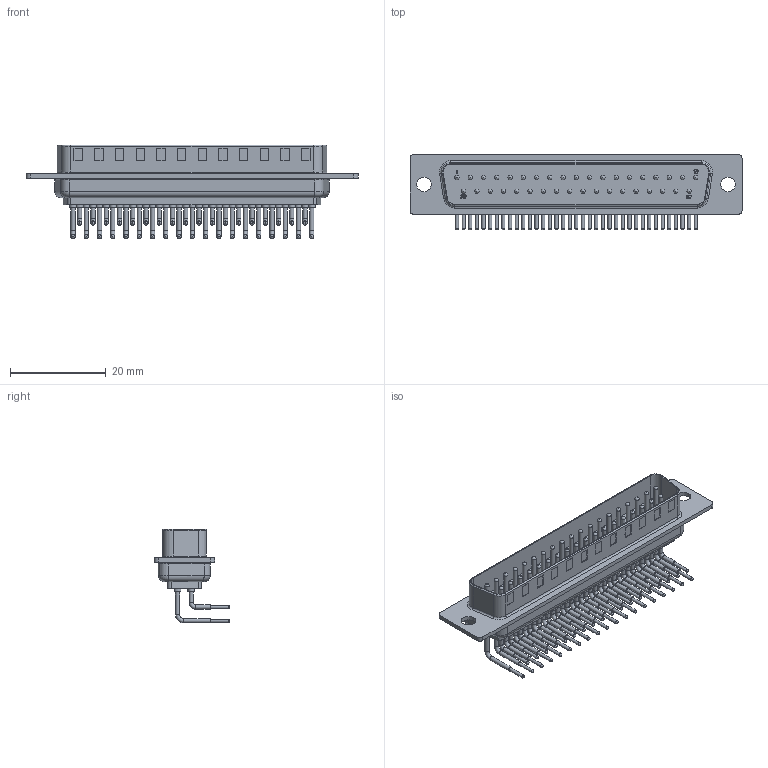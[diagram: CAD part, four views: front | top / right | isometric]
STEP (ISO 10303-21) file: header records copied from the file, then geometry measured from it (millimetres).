
FILE_DESCRIPTION (( 'STEP AP203' ), '1' );
FILE_NAME ('774-E37-113R001.STEP', '2026-04-28T15:17:34', ( '' ), ( '' ), 'SwSTEP 2.0', 'SolidWorks 2020', '' );
FILE_SCHEMA (( 'CONFIG_CONTROL_DESIGN' ));
Length unit declared in the file: inch
Products named in the file (1): 774-E37-113R001
Bounding box: 69.29 x 15.76 x 19.56 mm (x, y, z)
Volume: 4441.4 mm3; surface area: 5893.2 mm2
Topology: 1 solids, 1 shells, 722 faces, 1425 edges, 890 vertices
Faces by surface type: plane 335, cylinder 223, torus 127, bspline 37
Full cylindrical faces by diameter (mm): 0.66 x37, 0.889 x111, 1.397 x37, 3.048 x2
Entity records: 19088 total; most frequent: CARTESIAN_POINT 5057, DIRECTION 2953, ORIENTED_EDGE 2254, AXIS2_PLACEMENT_3D 1218, EDGE_LOOP 1209, EDGE_CURVE 1127, FACE_OUTER_BOUND 1020, VERTEX_POINT 890
